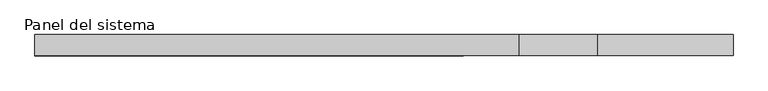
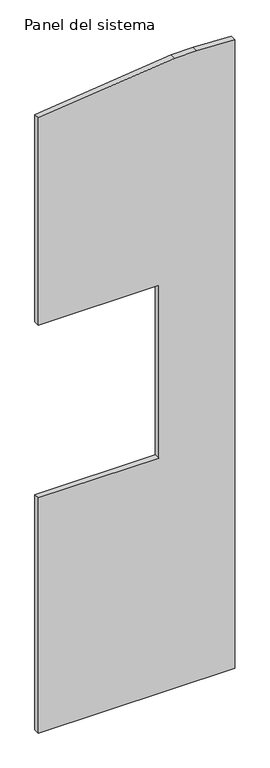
"""IFC4 building model written with IfcOpenShell, lengths in millimetres: plate geometry, Panel del sistema : HIANSA PANEL - PANELES DE CUBIERTA SIN TAPAJUNTA - EASY CUB 3GR - Esp. 30mm."""

from ifc_helpers import new_model, si_unit, point, frame, frame_2d, origin, place, context, project, spatial, polyline, circle_curve, trimmed, segment, composite_curve, outline, extrude, source, transform, mapped, element, save


def panel_del_sistema_e4207b6c(model_context):
    return source(origin(), model_context, "Body", "SweptSolid", [
        extrude(outline(composite_curve([segment(polyline([(0.0, -500.0), (0.0, 500.0), (3382.5874921, 500.0)]), True, "CONTINUOUS"), segment(trimmed(circle_curve(frame_2d((-202.632582, 249.9999997)), 3593.9258451), [point((3382.5874921, 500.0))], [point((3390.8509027, 306.3863935))], False, "CARTESIAN"), True, "CONTINUOUS"), segment(polyline([(3390.8509027, 306.3863935), (3390.8509027, 193.6136059)]), True, "CONTINUOUS"), segment(trimmed(circle_curve(frame_2d((-202.632582, 249.9999997)), 3593.9258451), [point((3390.8509027, 193.6136059))], [point((3312.1651335, -500.0))], False, "CARTESIAN"), True, "CONTINUOUS"), segment(polyline([(3312.1651335, -500.0), (2196.4441899, -500.0), (2196.4441899, 113.5365213), (1266.2659741, 113.5365213), (1266.2659741, -500.0), (0.0, -500.0)]), True, "CONTINUOUS")], self_intersect=False)), frame((0.0, 0.0, 0.0), z_axis=(0.0, 1.0, 0.0), x_axis=(0.0, 0.0, 1.0)), (0.0, 0.0, 1.0), 30.0),
    ])


if __name__ == "__main__":
    model = new_model("IFC4")
    model_context = context("Model", 3, world=origin())
    ifc_project = project(units=[si_unit("LENGTHUNIT", "METRE", prefix="MILLI")], contexts=[model_context])
    site = spatial("IfcSite", under=ifc_project)
    building = spatial("IfcBuilding", under=site)
    placement = place(None, origin())
    panel_del_sistema_shape = panel_del_sistema_e4207b6c(model_context)
    element("IfcPlate", 1, ObjectType="Panel del sistema : HIANSA PANEL - PANELES DE CUBIERTA SIN TAPAJUNTA - EASY CUB 3GR - Esp. 30mm", at=placement, inside=building, context=model_context, shape_type="MappedRepresentation", body=[
        mapped(panel_del_sistema_shape, transform((0.0, 0.0, 0.0), x_axis=(1.0, 0.0, 0.0), y_axis=(0.0, 1.0, 0.0), z_axis=(0.0, 0.0, 1.0))),
    ])
    save(model, "model.ifc")
